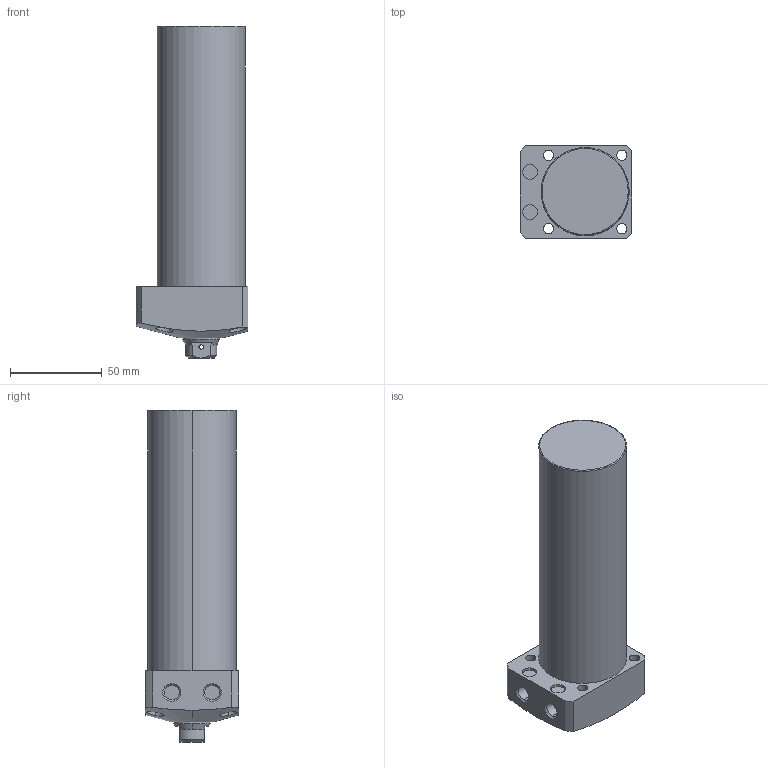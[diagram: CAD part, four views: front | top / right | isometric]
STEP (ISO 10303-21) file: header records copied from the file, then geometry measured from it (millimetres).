
FILE_DESCRIPTION (( 'STEP AP203' ), '1' );
FILE_NAME ('CLL-048CB-115.STEP', '2019-12-21T07:43:35', ( '' ), ( '' ), 'SwSTEP 2.0', 'SolidWorks 2015', '' );
FILE_SCHEMA (( 'CONFIG_CONTROL_DESIGN' ));
Length unit declared in the file: millimetre
Products named in the file (1): CLL-048CB-115
Bounding box: 61 x 51 x 181 mm (x, y, z)
Volume: 331121.6 mm3; surface area: 36228.1 mm2
Topology: 1 solids, 1 shells, 78 faces, 182 edges, 115 vertices
Faces by surface type: cylinder 39, plane 22, cone 15, torus 2
Entity records: 2751 total; most frequent: CARTESIAN_POINT 852, DIRECTION 394, ORIENTED_EDGE 360, EDGE_CURVE 180, AXIS2_PLACEMENT_3D 163, VERTEX_POINT 115, EDGE_LOOP 101, CIRCLE 84
